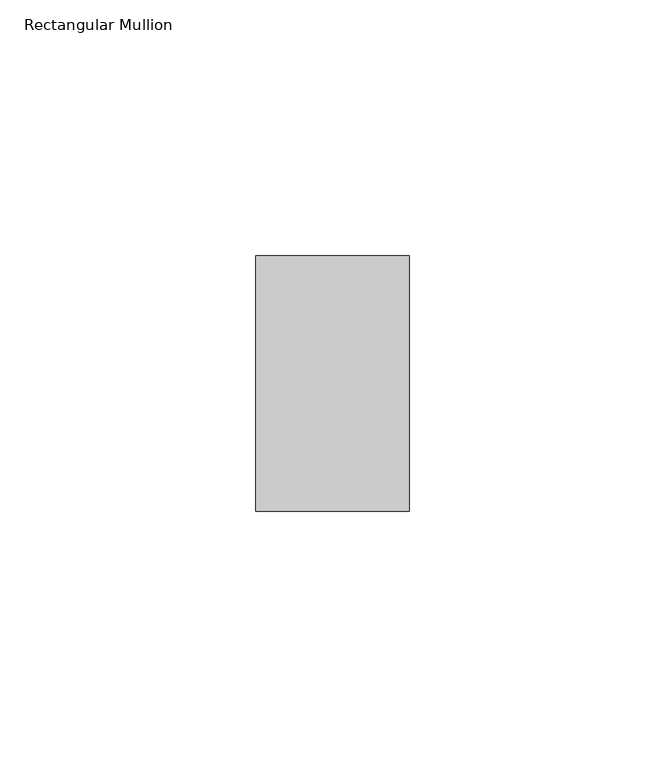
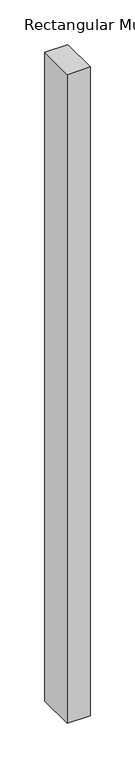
"""IFC4 building model written with IfcOpenShell, lengths in millimetres: member geometry, Rectangular Mullion : ARQ_TV_MULL_50x30mm."""

from ifc_helpers import new_model, si_unit, frame, origin, place, context, project, spatial, polyline, outline, extrude, source, transform, mapped, element, save


def rectangular_mullion_f9655b3d(model_context):
    return source(origin(), model_context, "Body", "SweptSolid", [
        extrude(outline(polyline([(15.0, 25.0), (15.0, -25.0), (-15.0, -25.0), (-15.0, 25.0), (15.0, 25.0)])), frame((0.0, 0.0, -886.3112159), z_axis=(0.0, 0.0, 1.0), x_axis=(1.0, 0.0, 0.0)), (0.0, 0.0, 1.0), 886.3112159),
    ])


if __name__ == "__main__":
    model = new_model("IFC4")
    model_context = context("Model", 3, world=origin())
    ifc_project = project(units=[si_unit("LENGTHUNIT", "METRE", prefix="MILLI")], contexts=[model_context])
    site = spatial("IfcSite", under=ifc_project)
    building = spatial("IfcBuilding", under=site)
    placement = place(None, origin())
    rectangular_mullion_shape = rectangular_mullion_f9655b3d(model_context)
    element("IfcMember", 1, ObjectType="Rectangular Mullion : ARQ_TV_MULL_50x30mm", at=placement, inside=building, context=model_context, shape_type="MappedRepresentation", body=[
        mapped(rectangular_mullion_shape, transform((0.0, 0.0, 0.0), x_axis=(1.0, 0.0, 0.0), y_axis=(0.0, 1.0, 0.0), z_axis=(0.0, 0.0, 1.0))),
    ])
    save(model, "model.ifc")
